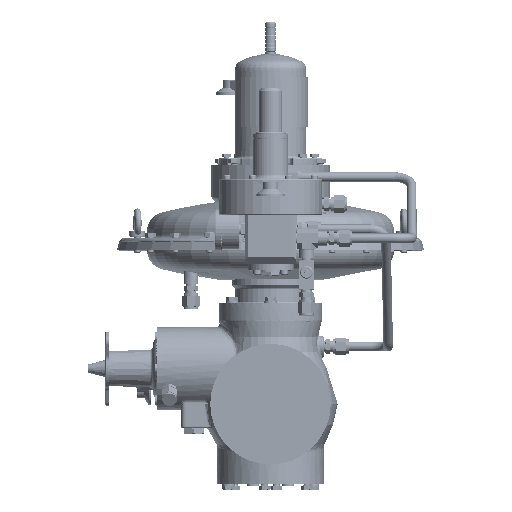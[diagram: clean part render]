
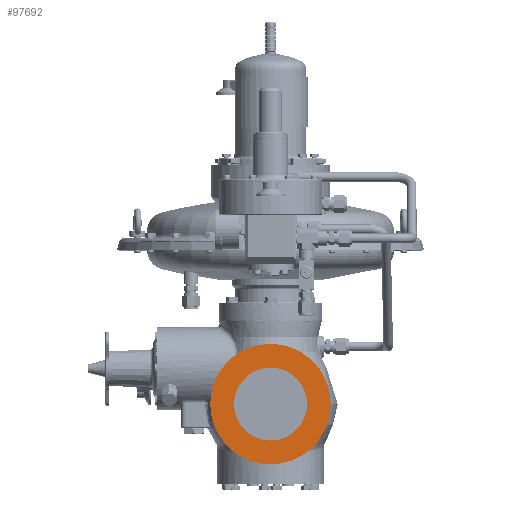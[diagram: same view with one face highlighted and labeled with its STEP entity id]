
A CAD part, top view. The second image highlights one B-rep face of the part: STEP entity #97692.
In plain terms, the highlighted planar face has unit normal (0, 0, 1).
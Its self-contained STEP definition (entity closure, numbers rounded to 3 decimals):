
#20567=CARTESIAN_POINT('',(0.,0.,125.4));
#20568=DIRECTION('',(0.,0.,1.));
#20569=DIRECTION('',(1.,0.,0.));
#20570=AXIS2_PLACEMENT_3D('',#20567,#20568,#20569);
#20572=CARTESIAN_POINT('',(0.,0.,125.4));
#20573=DIRECTION('',(0.,0.,1.));
#20574=DIRECTION('',(-1.,0.,0.));
#20575=AXIS2_PLACEMENT_3D('',#20572,#20573,#20574);
#20577=CARTESIAN_POINT('',(0.,0.,125.4));
#20578=DIRECTION('',(0.,0.,-1.));
#20579=DIRECTION('',(-1.,0.,0.));
#20580=AXIS2_PLACEMENT_3D('',#20577,#20578,#20579);
#20582=CARTESIAN_POINT('',(0.,0.,125.4));
#20583=DIRECTION('',(0.,0.,-1.));
#20584=DIRECTION('',(1.,0.,0.));
#20585=AXIS2_PLACEMENT_3D('',#20582,#20583,#20584);
#61462=CARTESIAN_POINT('',(-76.,0.,125.4));
#61463=VERTEX_POINT('',#61462);
#61464=CARTESIAN_POINT('',(76.,0.,125.4));
#61465=VERTEX_POINT('',#61464);
#61466=CARTESIAN_POINT('',(46.,0.,125.4));
#61467=CARTESIAN_POINT('',(-46.,0.,125.4));
#61468=VERTEX_POINT('',#61466);
#61469=VERTEX_POINT('',#61467);
#97677=CARTESIAN_POINT('',(0.,0.,125.4));
#97678=DIRECTION('',(0.,0.,1.));
#97679=DIRECTION('',(1.,0.,0.));
#97680=AXIS2_PLACEMENT_3D('',#97677,#97678,#97679);
#97681=PLANE('',#97680);
#97682=ORIENTED_EDGE('',*,*,#97659,.F.);
#97683=ORIENTED_EDGE('',*,*,#97672,.F.);
#97684=EDGE_LOOP('',(#97682,#97683));
#97685=FACE_OUTER_BOUND('',#97684,.F.);
#97687=ORIENTED_EDGE('',*,*,#97686,.F.);
#97689=ORIENTED_EDGE('',*,*,#97688,.F.);
#97690=EDGE_LOOP('',(#97687,#97689));
#97691=FACE_BOUND('',#97690,.F.);
#97692=ADVANCED_FACE('',(#97685,#97691),#97681,.T.);
#20571=CIRCLE('',#20570,76.);
#20576=CIRCLE('',#20575,76.);
#20581=CIRCLE('',#20580,46.);
#20586=CIRCLE('',#20585,46.);
#97659=EDGE_CURVE('',#61465,#61463,#20571,.T.);
#97672=EDGE_CURVE('',#61463,#61465,#20576,.T.);
#97686=EDGE_CURVE('',#61469,#61468,#20581,.T.);
#97688=EDGE_CURVE('',#61468,#61469,#20586,.T.);
